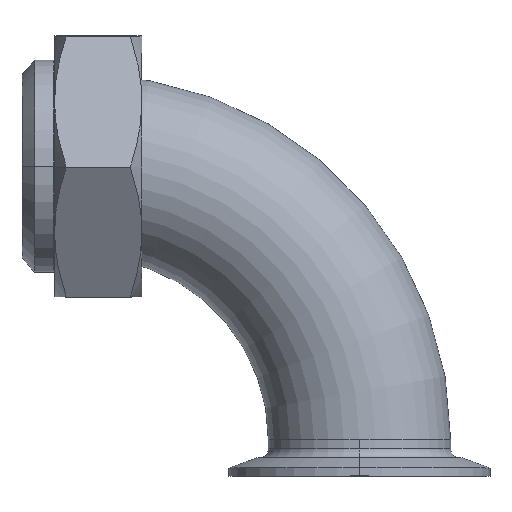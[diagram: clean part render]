
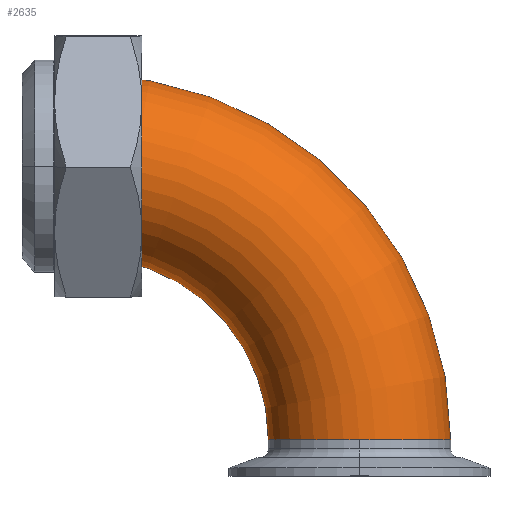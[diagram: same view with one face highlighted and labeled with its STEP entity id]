
A CAD part, top view. The second image highlights one B-rep face of the part: STEP entity #2635.
In plain terms, the highlighted toroidal (fillet/blend) face has major radius 95.25 mm and minor radius 31.75 mm.
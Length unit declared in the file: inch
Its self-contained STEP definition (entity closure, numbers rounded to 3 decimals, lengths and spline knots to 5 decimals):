
#58 = CARTESIAN_POINT ( 'NONE',  ( 0., 0., 0. ) ) ;
#175 = CARTESIAN_POINT ( 'NONE',  ( 0., 5., 0. ) ) ;
#363 = AXIS2_PLACEMENT_3D ( 'NONE', #58, #2244, #369 ) ;
#369 = DIRECTION ( 'NONE',  ( -1., 0., 0. ) ) ;
#394 = AXIS2_PLACEMENT_3D ( 'NONE', #3183, #1321, #3496 ) ;
#431 = CARTESIAN_POINT ( 'NONE',  ( 3.75, 0., 0. ) ) ;
#432 = AXIS2_PLACEMENT_3D ( 'NONE', #1833, #4015, #2133 ) ;
#494 = EDGE_CURVE ( 'NONE', #717, #3515, #1343, .T. ) ;
#593 = TOROIDAL_SURFACE ( 'NONE', #3161, 3.75, 1.25 ) ;
#717 = VERTEX_POINT ( 'NONE', #2223 ) ;
#754 = DIRECTION ( 'NONE',  ( 0., 0., 1. ) ) ;
#855 = EDGE_CURVE ( 'NONE', #3504, #3539, #3176, .T. ) ;
#883 = EDGE_CURVE ( 'NONE', #3504, #717, #4018, .T. ) ;
#1047 = CIRCLE ( 'NONE', #432, 5. ) ;
#1073 = ORIENTED_EDGE ( 'NONE', *, *, #1569, .F. ) ;
#1230 = CARTESIAN_POINT ( 'NONE',  ( 0., 0., 0. ) ) ;
#1321 = DIRECTION ( 'NONE',  ( -1., 0., 0. ) ) ;
#1343 = CIRCLE ( 'NONE', #1447, 1.25 ) ;
#1447 = AXIS2_PLACEMENT_3D ( 'NONE', #431, #2620, #754 ) ;
#1569 = EDGE_CURVE ( 'NONE', #3539, #3515, #1047, .T. ) ;
#1833 = CARTESIAN_POINT ( 'NONE',  ( 0., 0., 0. ) ) ;
#2059 = ORIENTED_EDGE ( 'NONE', *, *, #494, .T. ) ;
#2066 = CARTESIAN_POINT ( 'NONE',  ( 5., 0., 0. ) ) ;
#2133 = DIRECTION ( 'NONE',  ( -1., 0., 0. ) ) ;
#2174 = DIRECTION ( 'NONE',  ( 0., 0., -1. ) ) ;
#2223 = CARTESIAN_POINT ( 'NONE',  ( 2.5, 0., 0. ) ) ;
#2244 = DIRECTION ( 'NONE',  ( 0., 0., -1. ) ) ;
#2275 = ORIENTED_EDGE ( 'NONE', *, *, #883, .T. ) ;
#2620 = DIRECTION ( 'NONE',  ( 0., 1., 0. ) ) ;
#2635 = ADVANCED_FACE ( 'NONE', ( #3826 ), #593, .T. ) ;
#2988 = CARTESIAN_POINT ( 'NONE',  ( 0., 2.5, 0. ) ) ;
#3010 = ORIENTED_EDGE ( 'NONE', *, *, #855, .F. ) ;
#3161 = AXIS2_PLACEMENT_3D ( 'NONE', #1230, #2174, #3755 ) ;
#3176 = CIRCLE ( 'NONE', #394, 1.25 ) ;
#3183 = CARTESIAN_POINT ( 'NONE',  ( 0., 3.75, 0. ) ) ;
#3213 = EDGE_LOOP ( 'NONE', ( #1073, #3010, #2275, #2059 ) ) ;
#3496 = DIRECTION ( 'NONE',  ( 0., 0., 1. ) ) ;
#3504 = VERTEX_POINT ( 'NONE', #2988 ) ;
#3515 = VERTEX_POINT ( 'NONE', #2066 ) ;
#3539 = VERTEX_POINT ( 'NONE', #175 ) ;
#3755 = DIRECTION ( 'NONE',  ( -1., 0., 0. ) ) ;
#3826 = FACE_OUTER_BOUND ( 'NONE', #3213, .T. ) ;
#4015 = DIRECTION ( 'NONE',  ( 0., 0., -1. ) ) ;
#4018 = CIRCLE ( 'NONE', #363, 2.5 ) ;
